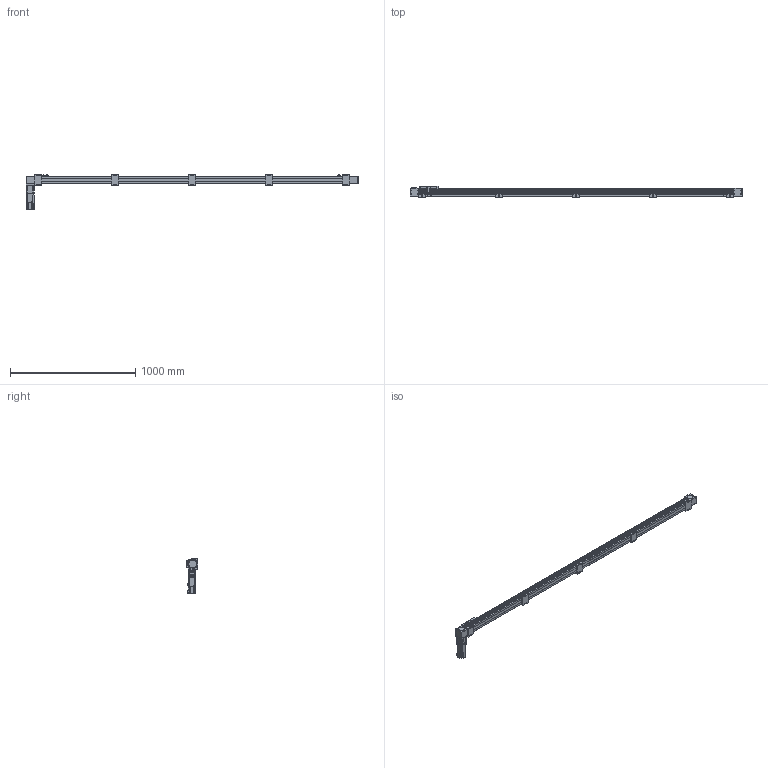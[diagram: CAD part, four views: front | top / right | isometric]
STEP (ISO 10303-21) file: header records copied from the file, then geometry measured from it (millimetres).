
FILE_DESCRIPTION(/* description */ ('STEP AP214'),/* implementation_level */ '2;1');
FILE_NAME(/* name */ 'SK60-P13-S2350-BR-T40-C1-N(0)',/* time_stamp */ '2023-04-06T04:02:53+02:00',/* author */ ('License CC BY-ND 4.0'),/* organization */ ('CADENAS'),/* preprocessor_version */ 'ST-DEVELOPER v19.3',/* originating_system */ 'PARTsolutions',/* authorisation */ ' ');
FILE_SCHEMA (('AUTOMOTIVE_DESIGN {1 0 10303 214 3 1 1}'));
Length unit declared in the file: millimetre
Products named in the file (11): SK60-P13-S2350-BR-T40-C1-N(0); PSC140-sensor; SK60-S450_seat; SK60-S450-BL-C1_slider; SK60_body3; SK60_body6; SK60-BL_body2; T40-p1; SK60_body5; SK60_body4; SK60-S2350-BR-C1_body
Assembly tree (20 placements, depth 2):
  SK60-P13-S2350-BR-T40-C1-N(0)
    PSC140-sensor  x3
    SK60-S450_seat  x5
    SK60-S450-BL-C1_slider
    SK60_body3  x3
    SK60_body6  x2
    SK60-BL_body2  x2
    T40-p1
    SK60_body5
    SK60_body4
    SK60-S2350-BR-C1_body
Bounding box: 2650 x 90 x 279.1 mm (x, y, z)
Volume: 9594949.5 mm3; surface area: 1176657.1 mm2
Topology: 20 solids, 24 shells, 966 faces, 2403 edges, 1586 vertices
Faces by surface type: plane 616, cylinder 314, cone 34, torus 2
Full cylindrical faces by diameter (mm): 2.8 x3, 3.3 x4, 4.2 x8, 4.5 x26, 4.6 x3, 4.917 x28, 5 x2, 5.478 x4, 5.5 x31, 6.5 x10, 8 x4, 8.5 x4, 9.988 x4, 10 x20, 13.556 x1, 14 x1, 14.586 x1, 19.692 x1, 38.432 x2, 43 x1, 44 x3, 47 x2, 50 x2
Entity records: 19395 total; most frequent: DIRECTION 3298, CARTESIAN_POINT 3292, ORIENTED_EDGE 3050, EDGE_CURVE 1525, AXIS2_PLACEMENT_3D 1103, LINE 1092, VECTOR 1092, VERTEX_POINT 1077
